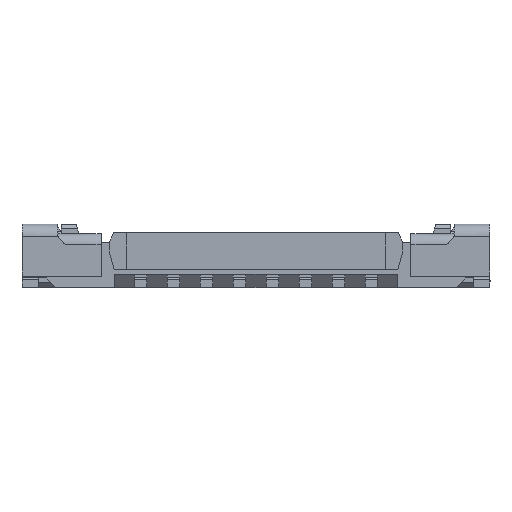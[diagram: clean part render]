
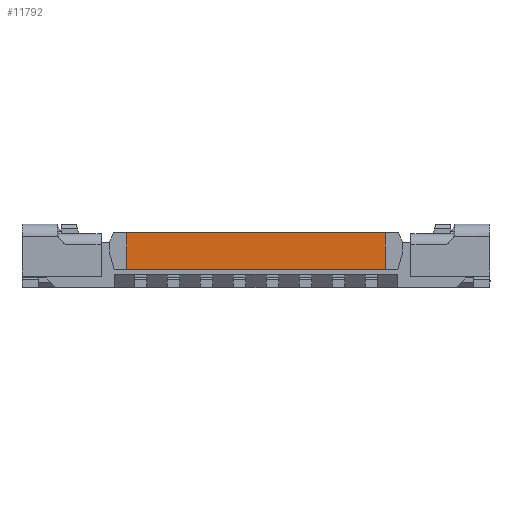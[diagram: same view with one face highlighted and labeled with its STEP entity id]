
A CAD part, top view. The second image highlights one B-rep face of the part: STEP entity #11792.
In plain terms, the highlighted planar face has unit normal (0, 0, 1).
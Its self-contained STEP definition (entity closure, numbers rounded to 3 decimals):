
#758 = CARTESIAN_POINT ( 'NONE',  ( 0.15, 0.19, 0.99 ) ) ;
#972 = CARTESIAN_POINT ( 'NONE',  ( -7.875, 0.19, 0.99 ) ) ;
#1565 = CARTESIAN_POINT ( 'NONE',  ( -2.6, 0.19, 0.99 ) ) ;
#2147 = FACE_OUTER_BOUND ( 'NONE', #3789, .T. ) ;
#2401 = EDGE_CURVE ( 'NONE', #4874, #11517, #13302, .T. ) ;
#2433 = ORIENTED_EDGE ( 'NONE', *, *, #2588, .F. ) ;
#2588 = EDGE_CURVE ( 'NONE', #4037, #6611, #10260, .T. ) ;
#3284 = DIRECTION ( 'NONE',  ( 0., -1., 0. ) ) ;
#3789 = EDGE_LOOP ( 'NONE', ( #2433, #7746, #13095, #4042 ) ) ;
#3844 = VECTOR ( 'NONE', #10197, 1000. ) ;
#4037 = VERTEX_POINT ( 'NONE', #758 ) ;
#4042 = ORIENTED_EDGE ( 'NONE', *, *, #9702, .T. ) ;
#4120 = DIRECTION ( 'NONE',  ( 0., -1., 0. ) ) ;
#4170 = VECTOR ( 'NONE', #3284, 1000. ) ;
#4180 = DIRECTION ( 'NONE',  ( -1., 0., 0. ) ) ;
#4439 = LINE ( 'NONE', #5590, #4170 ) ;
#4874 = VERTEX_POINT ( 'NONE', #7717 ) ;
#5457 = EDGE_CURVE ( 'NONE', #4874, #4037, #9248, .T. ) ;
#5590 = CARTESIAN_POINT ( 'NONE',  ( -2.6, 0.19, 0.99 ) ) ;
#6164 = DIRECTION ( 'NONE',  ( -1., 0., 0. ) ) ;
#6433 = AXIS2_PLACEMENT_3D ( 'NONE', #10271, #7161, #6164 ) ;
#6512 = CARTESIAN_POINT ( 'NONE',  ( -2.6, 0.58, 0.99 ) ) ;
#6611 = VERTEX_POINT ( 'NONE', #1565 ) ;
#7161 = DIRECTION ( 'NONE',  ( 0., 0., -1. ) ) ;
#7225 = PLANE ( 'NONE',  #6433 ) ;
#7717 = CARTESIAN_POINT ( 'NONE',  ( 0.15, 0.58, 0.99 ) ) ;
#7746 = ORIENTED_EDGE ( 'NONE', *, *, #5457, .F. ) ;
#8914 = CARTESIAN_POINT ( 'NONE',  ( -7.525, 0.58, 0.99 ) ) ;
#9248 = LINE ( 'NONE', #12237, #12544 ) ;
#9702 = EDGE_CURVE ( 'NONE', #11517, #6611, #4439, .T. ) ;
#10197 = DIRECTION ( 'NONE',  ( -1., 0., 0. ) ) ;
#10260 = LINE ( 'NONE', #972, #10531 ) ;
#10271 = CARTESIAN_POINT ( 'NONE',  ( -7.525, 0.17, 0.99 ) ) ;
#10531 = VECTOR ( 'NONE', #4180, 1000. ) ;
#11517 = VERTEX_POINT ( 'NONE', #6512 ) ;
#11792 = ADVANCED_FACE ( 'NONE', ( #2147 ), #7225, .F. ) ;
#12237 = CARTESIAN_POINT ( 'NONE',  ( 0.15, 0.19, 0.99 ) ) ;
#12544 = VECTOR ( 'NONE', #4120, 1000. ) ;
#13095 = ORIENTED_EDGE ( 'NONE', *, *, #2401, .T. ) ;
#13302 = LINE ( 'NONE', #8914, #3844 ) ;
